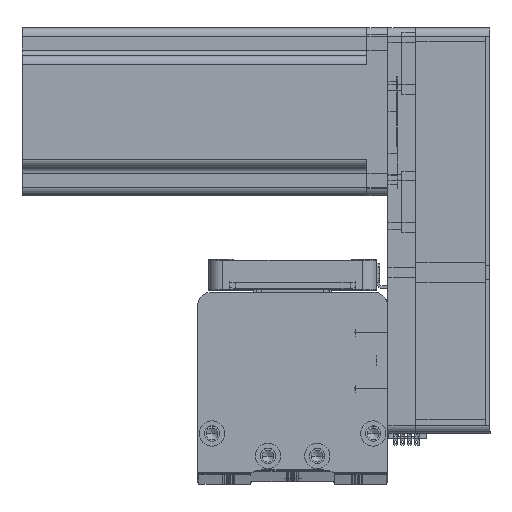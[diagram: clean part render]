
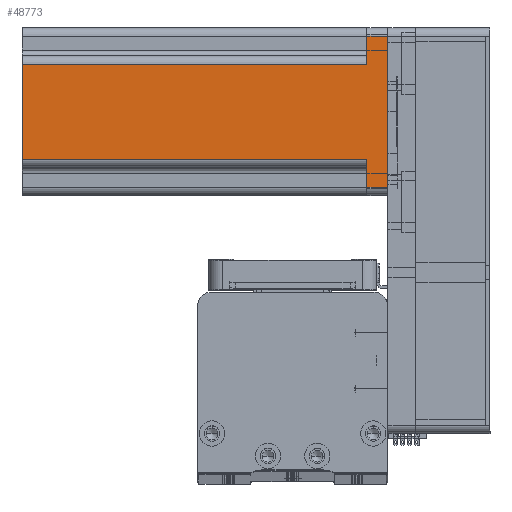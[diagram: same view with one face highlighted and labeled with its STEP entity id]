
A CAD part, top view. The second image highlights one B-rep face of the part: STEP entity #48773.
In plain terms, the highlighted planar face has unit normal (0, 0, 1) as drawn and (0, -1, 0) by its records, which use the part's own axes.
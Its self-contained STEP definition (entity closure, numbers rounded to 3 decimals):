
#1387 = PLANE ( 'NONE',  #53740 ) ;
#2301 = VECTOR ( 'NONE', #12374, 1000. ) ;
#2915 = VECTOR ( 'NONE', #21554, 1000. ) ;
#3383 = EDGE_CURVE ( 'NONE', #8299, #30746, #43716, .T. ) ;
#3679 = CARTESIAN_POINT ( 'NONE',  ( 17., -30., 130.7 ) ) ;
#3757 = VECTOR ( 'NONE', #4892, 1000. ) ;
#4828 = ORIENTED_EDGE ( 'NONE', *, *, #25148, .T. ) ;
#4892 = DIRECTION ( 'NONE',  ( 1., 0., 0. ) ) ;
#4968 = ORIENTED_EDGE ( 'NONE', *, *, #38624, .F. ) ;
#5647 = LINE ( 'NONE', #25763, #2915 ) ;
#6265 = VERTEX_POINT ( 'NONE', #17544 ) ;
#7016 = VECTOR ( 'NONE', #29912, 1000. ) ;
#7304 = EDGE_CURVE ( 'NONE', #38053, #10489, #55194, .T. ) ;
#7619 = VECTOR ( 'NONE', #32806, 1000. ) ;
#8299 = VERTEX_POINT ( 'NONE', #12507 ) ;
#8845 = VECTOR ( 'NONE', #34130, 1000. ) ;
#10489 = VERTEX_POINT ( 'NONE', #10891 ) ;
#10891 = CARTESIAN_POINT ( 'NONE',  ( 27., -30., 7.5 ) ) ;
#11108 = VERTEX_POINT ( 'NONE', #36434 ) ;
#11370 = EDGE_CURVE ( 'NONE', #11108, #30746, #40371, .T. ) ;
#11397 = EDGE_CURVE ( 'NONE', #10489, #18947, #5647, .T. ) ;
#12374 = DIRECTION ( 'NONE',  ( 0., 0., -1. ) ) ;
#12376 = ORIENTED_EDGE ( 'NONE', *, *, #16981, .T. ) ;
#12507 = CARTESIAN_POINT ( 'NONE',  ( -17., -30., 130.7 ) ) ;
#12632 = DIRECTION ( 'NONE',  ( 1., 0., 0. ) ) ;
#13798 = VERTEX_POINT ( 'NONE', #38116 ) ;
#13898 = CARTESIAN_POINT ( 'NONE',  ( 27., -30., 130.7 ) ) ;
#13921 = LINE ( 'NONE', #38233, #2301 ) ;
#14365 = VECTOR ( 'NONE', #44345, 1000. ) ;
#14801 = CARTESIAN_POINT ( 'NONE',  ( -17., -30., 7.5 ) ) ;
#15347 = LINE ( 'NONE', #26582, #3757 ) ;
#16981 = EDGE_CURVE ( 'NONE', #18947, #13798, #20428, .T. ) ;
#17544 = CARTESIAN_POINT ( 'NONE',  ( -27., -30., 0. ) ) ;
#18895 = CARTESIAN_POINT ( 'NONE',  ( 30., -30., 130.7 ) ) ;
#18947 = VERTEX_POINT ( 'NONE', #28202 ) ;
#19868 = CARTESIAN_POINT ( 'NONE',  ( -17., -30., 130.7 ) ) ;
#20428 = LINE ( 'NONE', #3679, #8845 ) ;
#21554 = DIRECTION ( 'NONE',  ( -1., 0., 0. ) ) ;
#23271 = DIRECTION ( 'NONE',  ( -1., 0., 0. ) ) ;
#25148 = EDGE_CURVE ( 'NONE', #11108, #6265, #13921, .T. ) ;
#25763 = CARTESIAN_POINT ( 'NONE',  ( 20., -30., 7.5 ) ) ;
#26582 = CARTESIAN_POINT ( 'NONE',  ( 30., -30., 0. ) ) ;
#28202 = CARTESIAN_POINT ( 'NONE',  ( 17., -30., 7.5 ) ) ;
#28952 = EDGE_LOOP ( 'NONE', ( #4968, #53262, #53182, #4828, #30676, #46416, #54584, #12376 ) ) ;
#29912 = DIRECTION ( 'NONE',  ( 1., 0., 0. ) ) ;
#30676 = ORIENTED_EDGE ( 'NONE', *, *, #45643, .T. ) ;
#30746 = VERTEX_POINT ( 'NONE', #14801 ) ;
#32806 = DIRECTION ( 'NONE',  ( 0., 0., -1. ) ) ;
#34130 = DIRECTION ( 'NONE',  ( 0., 0., 1. ) ) ;
#34306 = CARTESIAN_POINT ( 'NONE',  ( 30., -30., 130.7 ) ) ;
#36434 = CARTESIAN_POINT ( 'NONE',  ( -27., -30., 7.5 ) ) ;
#38053 = VERTEX_POINT ( 'NONE', #51583 ) ;
#38116 = CARTESIAN_POINT ( 'NONE',  ( 17., -30., 130.7 ) ) ;
#38233 = CARTESIAN_POINT ( 'NONE',  ( -27., -30., 130.7 ) ) ;
#38624 = EDGE_CURVE ( 'NONE', #8299, #13798, #41334, .T. ) ;
#38957 = FACE_OUTER_BOUND ( 'NONE', #28952, .T. ) ;
#40371 = LINE ( 'NONE', #56040, #7016 ) ;
#41334 = LINE ( 'NONE', #34306, #54294 ) ;
#43716 = LINE ( 'NONE', #19868, #7619 ) ;
#44345 = DIRECTION ( 'NONE',  ( 0., 0., 1. ) ) ;
#45643 = EDGE_CURVE ( 'NONE', #6265, #38053, #15347, .T. ) ;
#46416 = ORIENTED_EDGE ( 'NONE', *, *, #7304, .T. ) ;
#48773 = ADVANCED_FACE ( 'NONE', ( #38957 ), #1387, .F. ) ;
#49417 = DIRECTION ( 'NONE',  ( 0., 1., 0. ) ) ;
#51583 = CARTESIAN_POINT ( 'NONE',  ( 27., -30., 0. ) ) ;
#53182 = ORIENTED_EDGE ( 'NONE', *, *, #11370, .F. ) ;
#53262 = ORIENTED_EDGE ( 'NONE', *, *, #3383, .T. ) ;
#53740 = AXIS2_PLACEMENT_3D ( 'NONE', #18895, #49417, #23271 ) ;
#54294 = VECTOR ( 'NONE', #12632, 1000. ) ;
#54584 = ORIENTED_EDGE ( 'NONE', *, *, #11397, .T. ) ;
#55194 = LINE ( 'NONE', #13898, #14365 ) ;
#56040 = CARTESIAN_POINT ( 'NONE',  ( -20., -30., 7.5 ) ) ;
